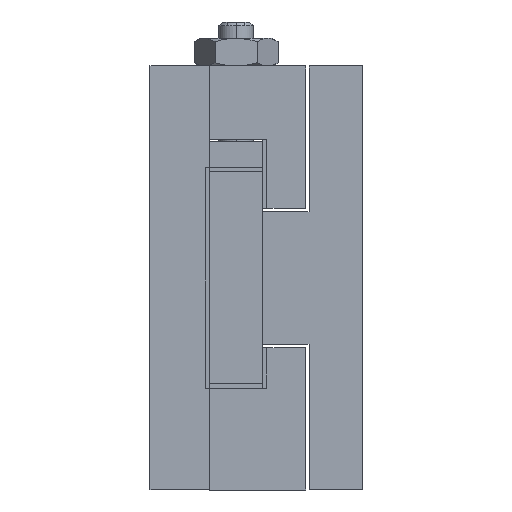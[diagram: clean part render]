
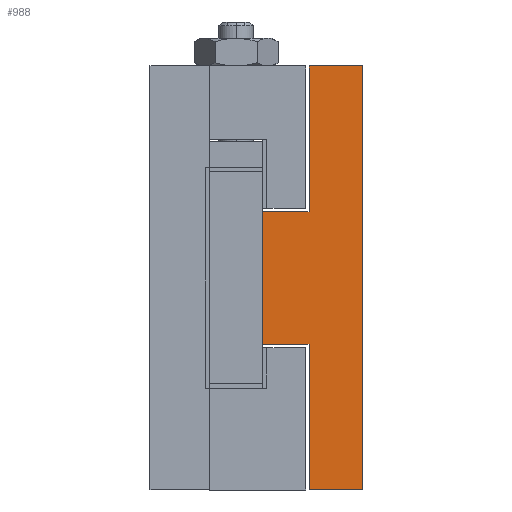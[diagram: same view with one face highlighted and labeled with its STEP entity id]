
A CAD part, left-side view. The second image highlights one B-rep face of the part: STEP entity #988.
In plain terms, the highlighted planar face has unit normal (-1, 0, 0).
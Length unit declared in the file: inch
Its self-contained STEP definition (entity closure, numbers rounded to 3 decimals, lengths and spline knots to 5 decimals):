
#18 = CARTESIAN_POINT ( 'NONE',  ( 0., 0., 1. ) ) ;
#20 = LINE ( 'NONE', #18, #34 ) ;
#33 = DIRECTION ( 'NONE',  ( 0., 0., -1. ) ) ;
#34 = VECTOR ( 'NONE', #33, 39.37008 ) ;
#565 = PLANE ( 'NONE',  #614 ) ;
#582 = DIRECTION ( 'NONE',  ( 1., 0., 0. ) ) ;
#591 = CARTESIAN_POINT ( 'NONE',  ( 0., 0., 1. ) ) ;
#592 = CARTESIAN_POINT ( 'NONE',  ( 0., 0., 1. ) ) ;
#596 = DIRECTION ( 'NONE',  ( 0., 0., -1. ) ) ;
#614 = AXIS2_PLACEMENT_3D ( 'NONE', #592, #582, #596 ) ;
#634 = FACE_OUTER_BOUND ( 'NONE', #979, .T. ) ;
#840 = CARTESIAN_POINT ( 'NONE',  ( 0., 0.25, 0.3125 ) ) ;
#979 = EDGE_LOOP ( 'NONE', ( #3281, #1456, #1443, #1465, #3271, #1475, #3274, #996 ) ) ;
#988 = ADVANCED_FACE ( 'NONE', ( #634 ), #565, .F. ) ;
#993 = VERTEX_POINT ( 'NONE', #591 ) ;
#996 = ORIENTED_EDGE ( 'NONE', *, *, #6030, .F. ) ;
#1017 = VERTEX_POINT ( 'NONE', #840 ) ;
#1293 = CARTESIAN_POINT ( 'NONE',  ( 0., 0.46875, 0.3125 ) ) ;
#1294 = VECTOR ( 'NONE', #1296, 39.37008 ) ;
#1295 = LINE ( 'NONE', #1293, #1294 ) ;
#1296 = DIRECTION ( 'NONE',  ( 0., 1., 0. ) ) ;
#1303 = CARTESIAN_POINT ( 'NONE',  ( 0., 0.25, 1. ) ) ;
#1304 = LINE ( 'NONE', #1303, #1305 ) ;
#1305 = VECTOR ( 'NONE', #1306, 39.37008 ) ;
#1306 = DIRECTION ( 'NONE',  ( 0., 0., -1. ) ) ;
#1411 = EDGE_CURVE ( 'NONE', #1442, #1437, #3758, .T. ) ;
#1415 = EDGE_CURVE ( 'NONE', #1452, #1437, #3647, .T. ) ;
#1418 = EDGE_CURVE ( 'NONE', #6022, #1442, #3559, .T. ) ;
#1435 = VERTEX_POINT ( 'NONE', #4049 ) ;
#1437 = VERTEX_POINT ( 'NONE', #4050 ) ;
#1442 = VERTEX_POINT ( 'NONE', #4061 ) ;
#1443 = ORIENTED_EDGE ( 'NONE', *, *, #1415, .F. ) ;
#1452 = VERTEX_POINT ( 'NONE', #7004 ) ;
#1456 = ORIENTED_EDGE ( 'NONE', *, *, #1411, .T. ) ;
#1464 = EDGE_CURVE ( 'NONE', #993, #1452, #20, .T. ) ;
#1465 = ORIENTED_EDGE ( 'NONE', *, *, #1464, .F. ) ;
#1475 = ORIENTED_EDGE ( 'NONE', *, *, #1476, .T. ) ;
#1476 = EDGE_CURVE ( 'NONE', #1435, #1017, #1304, .T. ) ;
#1481 = EDGE_CURVE ( 'NONE', #1017, #6312, #1295, .T. ) ;
#1484 = EDGE_CURVE ( 'NONE', #1435, #993, #1981, .T. ) ;
#1977 = CARTESIAN_POINT ( 'NONE',  ( 0., 0.46875, 1. ) ) ;
#1981 = LINE ( 'NONE', #1977, #2006 ) ;
#2006 = VECTOR ( 'NONE', #2021, 39.37008 ) ;
#2021 = DIRECTION ( 'NONE',  ( 0., -1., 0. ) ) ;
#3271 = ORIENTED_EDGE ( 'NONE', *, *, #1484, .F. ) ;
#3274 = ORIENTED_EDGE ( 'NONE', *, *, #1481, .T. ) ;
#3281 = ORIENTED_EDGE ( 'NONE', *, *, #1418, .T. ) ;
#3540 = VECTOR ( 'NONE', #3548, 39.37008 ) ;
#3548 = DIRECTION ( 'NONE',  ( 0., 0., -1. ) ) ;
#3554 = DIRECTION ( 'NONE',  ( 0., 1., 0. ) ) ;
#3557 = VECTOR ( 'NONE', #3562, 39.37008 ) ;
#3558 = CARTESIAN_POINT ( 'NONE',  ( 0., 0.46875, -0.3125 ) ) ;
#3559 = LINE ( 'NONE', #3558, #3557 ) ;
#3562 = DIRECTION ( 'NONE',  ( 0., -1., 0. ) ) ;
#3626 = VECTOR ( 'NONE', #3554, 39.37008 ) ;
#3646 = CARTESIAN_POINT ( 'NONE',  ( 0., 0.46875, -1. ) ) ;
#3647 = LINE ( 'NONE', #3646, #3626 ) ;
#3757 = CARTESIAN_POINT ( 'NONE',  ( 0., 0.25, -1. ) ) ;
#3758 = LINE ( 'NONE', #3757, #3540 ) ;
#4049 = CARTESIAN_POINT ( 'NONE',  ( 0., 0.25, 1. ) ) ;
#4050 = CARTESIAN_POINT ( 'NONE',  ( 0., 0.25, -1. ) ) ;
#4061 = CARTESIAN_POINT ( 'NONE',  ( 0., 0.25, -0.3125 ) ) ;
#5939 = CARTESIAN_POINT ( 'NONE',  ( 0., 0.46875, -0.3125 ) ) ;
#5969 = DIRECTION ( 'NONE',  ( 0., 0., 1. ) ) ;
#5970 = VECTOR ( 'NONE', #5969, 39.37008 ) ;
#5971 = CARTESIAN_POINT ( 'NONE',  ( 0., 0.46875, 1. ) ) ;
#5978 = LINE ( 'NONE', #5971, #5970 ) ;
#5979 = CARTESIAN_POINT ( 'NONE',  ( 0., 0.46875, 0.3125 ) ) ;
#6022 = VERTEX_POINT ( 'NONE', #5939 ) ;
#6030 = EDGE_CURVE ( 'NONE', #6022, #6312, #5978, .T. ) ;
#6312 = VERTEX_POINT ( 'NONE', #5979 ) ;
#7004 = CARTESIAN_POINT ( 'NONE',  ( 0., 0., -1. ) ) ;
